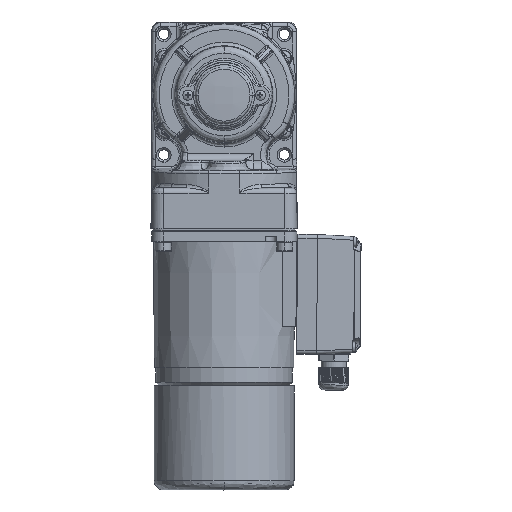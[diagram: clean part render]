
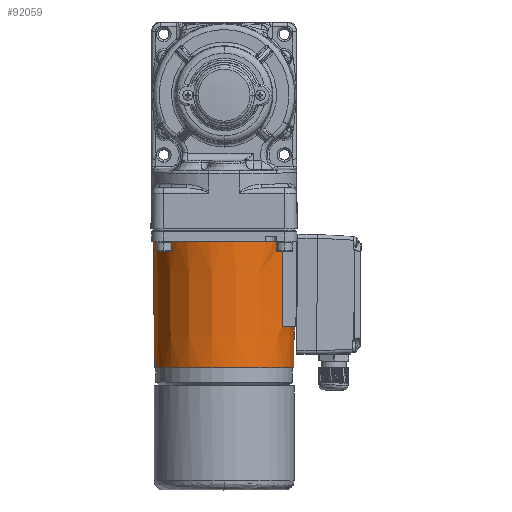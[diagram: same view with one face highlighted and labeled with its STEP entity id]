
A CAD part, left-side view. The second image highlights one B-rep face of the part: STEP entity #92059.
In plain terms, the highlighted conical face has half-angle 0.47 degrees and reference radius 38.947 mm.
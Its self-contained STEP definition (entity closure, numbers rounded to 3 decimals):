
#872 = EDGE_LOOP ( 'NONE', ( #62005, #29985, #90980, #51475, #45777, #14529 ) ) ;
#3686 = DIRECTION ( 'NONE',  ( 0., -1., 0.008 ) ) ;
#4626 = CARTESIAN_POINT ( 'NONE',  ( 21.863, 15.712, 32.076 ) ) ;
#6934 = VERTEX_POINT ( 'NONE', #48495 ) ;
#7774 = DIRECTION ( 'NONE',  ( 0., 0., -1. ) ) ;
#10652 = CIRCLE ( 'NONE', #89444, 38.561 ) ;
#14529 = ORIENTED_EDGE ( 'NONE', *, *, #85174, .F. ) ;
#15162 = VERTEX_POINT ( 'NONE', #51643 ) ;
#17635 = CARTESIAN_POINT ( 'NONE',  ( 0., 47., 0. ) ) ;
#22273 = DIRECTION ( 'NONE',  ( 0., -1., -0.008 ) ) ;
#24145 = AXIS2_PLACEMENT_3D ( 'NONE', #78011, #39368, #7774 ) ;
#25459 = DIRECTION ( 'NONE',  ( 0., 0., -1. ) ) ;
#27538 = VERTEX_POINT ( 'NONE', #97472 ) ;
#28045 = CARTESIAN_POINT ( 'NONE',  ( 21.59, 47., 31.951 ) ) ;
#29985 = ORIENTED_EDGE ( 'NONE', *, *, #93629, .T. ) ;
#31636 = LINE ( 'NONE', #68680, #59602 ) ;
#36329 = CARTESIAN_POINT ( 'NONE',  ( 0., 0., -38.947 ) ) ;
#37120 = AXIS2_PLACEMENT_3D ( 'NONE', #88091, #41726, #95676 ) ;
#39368 = DIRECTION ( 'NONE',  ( 0., -1., 0. ) ) ;
#39915 = VERTEX_POINT ( 'NONE', #79158 ) ;
#41726 = DIRECTION ( 'NONE',  ( 0., -1., 0. ) ) ;
#45517 = DIRECTION ( 'NONE',  ( 0., 1., 0. ) ) ;
#45777 = ORIENTED_EDGE ( 'NONE', *, *, #98934, .T. ) ;
#48495 = CARTESIAN_POINT ( 'NONE',  ( 0., 69.5, 38.377 ) ) ;
#51475 = ORIENTED_EDGE ( 'NONE', *, *, #98104, .T. ) ;
#51643 = CARTESIAN_POINT ( 'NONE',  ( 22., 0., 32.138 ) ) ;
#51690 = CONICAL_SURFACE ( 'NONE', #24145, 38.947, 0.008 ) ;
#55209 = AXIS2_PLACEMENT_3D ( 'NONE', #91829, #45517, #99321 ) ;
#59173 = CARTESIAN_POINT ( 'NONE',  ( 22., 0., 32.138 ) ) ;
#59602 = VECTOR ( 'NONE', #22273, 1000. ) ;
#60193 = LINE ( 'NONE', #96696, #93646 ) ;
#62005 = ORIENTED_EDGE ( 'NONE', *, *, #93045, .T. ) ;
#68680 = CARTESIAN_POINT ( 'NONE',  ( 0., 0., -38.947 ) ) ;
#71918 = DIRECTION ( 'NONE',  ( 0., 1., 0. ) ) ;
#72027 = CIRCLE ( 'NONE', #37120, 38.377 ) ;
#74576 = CARTESIAN_POINT ( 'NONE',  ( 21.726, 31.379, 32.013 ) ) ;
#74849 = FACE_OUTER_BOUND ( 'NONE', #872, .T. ) ;
#78011 = CARTESIAN_POINT ( 'NONE',  ( 0., 0., 0. ) ) ;
#79158 = CARTESIAN_POINT ( 'NONE',  ( 0., 69.5, -38.377 ) ) ;
#80230 = CIRCLE ( 'NONE', #55209, 38.947 ) ;
#83813 =( BOUNDED_CURVE ( )  B_SPLINE_CURVE ( 3, ( #28045, #74576, #4626, #59173 ),
 .UNSPECIFIED., .F., .F. ) 
 B_SPLINE_CURVE_WITH_KNOTS ( ( 4, 4 ),
 ( 3.781, 3.785 ),
 .UNSPECIFIED. ) 
 CURVE ( )  GEOMETRIC_REPRESENTATION_ITEM ( )  RATIONAL_B_SPLINE_CURVE ( ( 1., 1., 1., 1. ) ) 
 REPRESENTATION_ITEM ( '' )  );
#85174 = EDGE_CURVE ( 'NONE', #39915, #100268, #31636, .T. ) ;
#88091 = CARTESIAN_POINT ( 'NONE',  ( 0., 69.5, 0. ) ) ;
#89444 = AXIS2_PLACEMENT_3D ( 'NONE', #17635, #71918, #25459 ) ;
#90980 = ORIENTED_EDGE ( 'NONE', *, *, #96795, .T. ) ;
#91829 = CARTESIAN_POINT ( 'NONE',  ( 0., 0., 0. ) ) ;
#92059 = ADVANCED_FACE ( 'NONE', ( #74849 ), #51690, .T. ) ;
#93045 = EDGE_CURVE ( 'NONE', #39915, #6934, #72027, .T. ) ;
#93629 = EDGE_CURVE ( 'NONE', #6934, #94640, #60193, .T. ) ;
#93646 = VECTOR ( 'NONE', #3686, 1000. ) ;
#94640 = VERTEX_POINT ( 'NONE', #96834 ) ;
#95676 = DIRECTION ( 'NONE',  ( 0., 0., -1. ) ) ;
#96696 = CARTESIAN_POINT ( 'NONE',  ( 0., 0., 38.947 ) ) ;
#96795 = EDGE_CURVE ( 'NONE', #94640, #27538, #10652, .T. ) ;
#96834 = CARTESIAN_POINT ( 'NONE',  ( 0., 47., 38.561 ) ) ;
#97472 = CARTESIAN_POINT ( 'NONE',  ( 21.59, 47., 31.951 ) ) ;
#98104 = EDGE_CURVE ( 'NONE', #27538, #15162, #83813, .T. ) ;
#98934 = EDGE_CURVE ( 'NONE', #15162, #100268, #80230, .T. ) ;
#99321 = DIRECTION ( 'NONE',  ( 0., 0., -1. ) ) ;
#100268 = VERTEX_POINT ( 'NONE', #36329 ) ;
